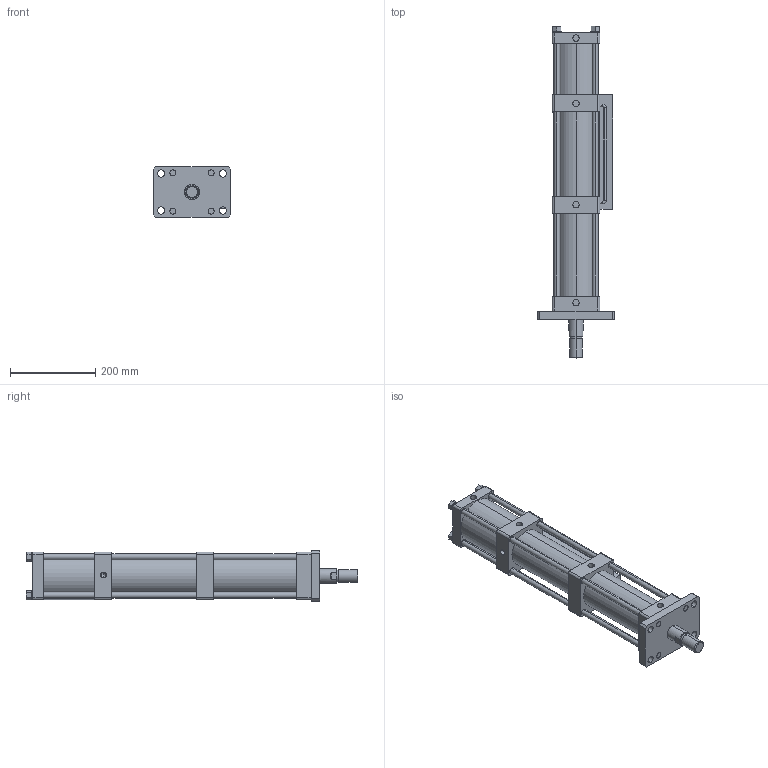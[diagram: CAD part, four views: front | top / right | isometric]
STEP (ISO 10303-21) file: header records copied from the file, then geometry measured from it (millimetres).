
FILE_DESCRIPTION (( 'STEP AP203' ), '1' );
FILE_NAME ('MPTF-80-150-5-5T.STEP', '2016-03-29T10:08:34', ( 'WIN' ), ( '' ), 'SwSTEP 2.0', 'SolidWorks 2014', '' );
FILE_SCHEMA (( 'CONFIG_CONTROL_DESIGN' ));
Length unit declared in the file: millimetre
Products named in the file (1): MPTF-80-150-5-5T
Bounding box: 180 x 780 x 118 mm (x, y, z)
Volume: 3470624.2 mm3; surface area: 665528.3 mm2
Topology: 5 solids, 5 shells, 266 faces, 632 edges, 413 vertices
Faces by surface type: cylinder 136, plane 120, cone 6, torus 4
Entity records: 7973 total; most frequent: DIRECTION 1448, CARTESIAN_POINT 1382, ORIENTED_EDGE 1260, EDGE_CURVE 630, AXIS2_PLACEMENT_3D 555, VERTEX_POINT 413, EDGE_LOOP 349, VECTOR 338
